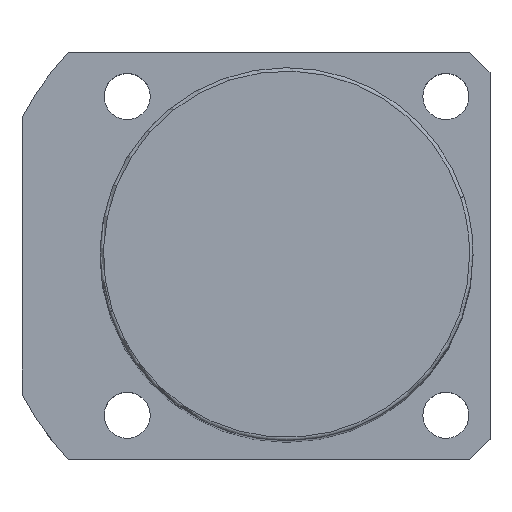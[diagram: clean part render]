
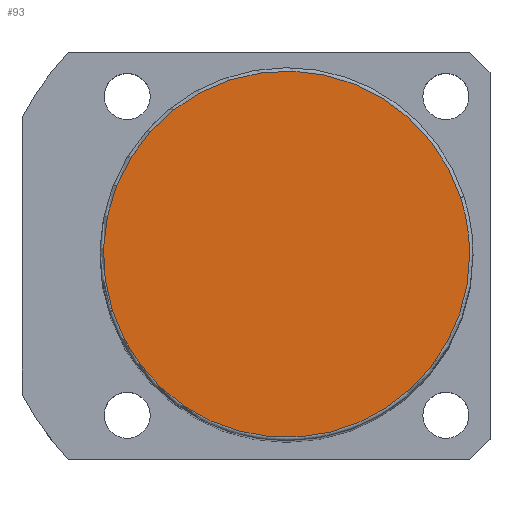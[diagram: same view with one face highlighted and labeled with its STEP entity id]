
A CAD part, top view. The second image highlights one B-rep face of the part: STEP entity #93.
In plain terms, the highlighted planar face has unit normal (0, 0, 1).
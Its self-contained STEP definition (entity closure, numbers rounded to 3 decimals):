
#16=CARTESIAN_POINT('',(25.679,8.343,151.0));
#17=VERTEX_POINT('',#16);
#45=CARTESIAN_POINT('',(-25.679,-8.343,151.0));
#46=VERTEX_POINT('',#45);
#54=CARTESIAN_POINT('',(0.0,0.0,151.0));
#55=DIRECTION('',(0.0,0.0,1.0));
#56=DIRECTION('',(1.0,0.0,0.0));
#57=AXIS2_PLACEMENT_3D('',#54,#55,#56);
#58=CIRCLE('',#57,27.0);
#59=EDGE_CURVE('no 890',#17,#46,#58,.T.);
#69=CARTESIAN_POINT('',(27.0,0.0,151.0));
#70=VERTEX_POINT('',#69);
#71=CARTESIAN_POINT('',(0.0,0.0,151.0));
#72=DIRECTION('',(0.0,0.0,1.0));
#73=DIRECTION('',(1.0,0.0,0.0));
#74=AXIS2_PLACEMENT_3D('',#71,#72,#73);
#75=CIRCLE('',#74,27.0);
#76=EDGE_CURVE('no 899',#70,#17,#75,.T.);
#77=ORIENTED_EDGE('',*,*,#76,.T.);
#78=ORIENTED_EDGE('',*,*,#59,.T.);
#79=CARTESIAN_POINT('',(0.0,0.0,151.0));
#80=DIRECTION('',(0.0,0.0,1.0));
#81=DIRECTION('',(1.0,0.0,0.0));
#82=AXIS2_PLACEMENT_3D('',#79,#80,#81);
#83=CIRCLE('',#82,27.0);
#84=EDGE_CURVE('no 905',#46,#70,#83,.T.);
#85=ORIENTED_EDGE('',*,*,#84,.T.);
#86=EDGE_LOOP('',(#77,#78,#85));
#87=FACE_OUTER_BOUND('',#86,.T.);
#88=CARTESIAN_POINT('',(0.0,0.0,151.0));
#89=DIRECTION('',(0.0,0.0,1.0));
#90=DIRECTION('',(1.0,0.0,0.0));
#91=AXIS2_PLACEMENT_3D('',#88,#89,#90);
#92=PLANE('',#91);
#93=ADVANCED_FACE('no 892',(#87),#92,.T.);
